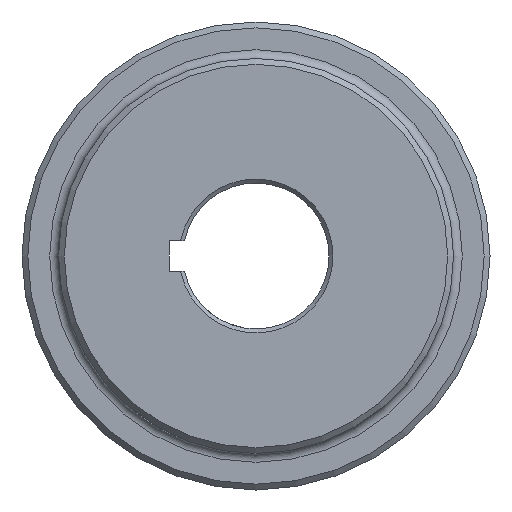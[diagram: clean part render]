
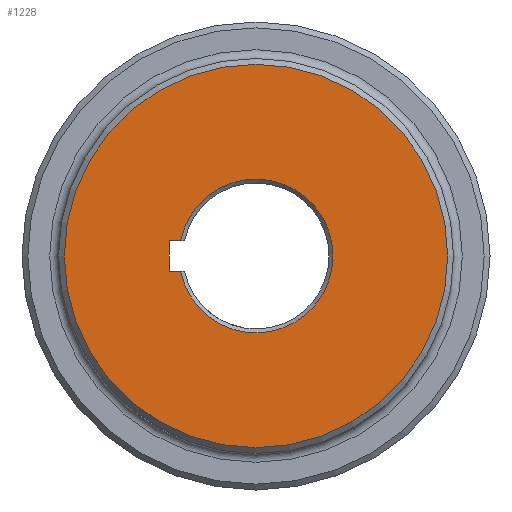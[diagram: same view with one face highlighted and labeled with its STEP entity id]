
A CAD part, left-side view. The second image highlights one B-rep face of the part: STEP entity #1228.
In plain terms, the highlighted planar face has unit normal (-1, 0, 0).
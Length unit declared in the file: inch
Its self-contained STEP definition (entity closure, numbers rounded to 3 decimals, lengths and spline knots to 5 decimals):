
#157 = CIRCLE ( 'NONE', #2708, 0.79025 ) ;
#222 = AXIS2_PLACEMENT_3D ( 'NONE', #2138, #1320, #1543 ) ;
#355 = LINE ( 'NONE', #1721, #2446 ) ;
#487 = VERTEX_POINT ( 'NONE', #1384 ) ;
#560 = DIRECTION ( 'NONE',  ( 0., 0., -1. ) ) ;
#602 = EDGE_CURVE ( 'NONE', #1437, #2152, #1894, .T. ) ;
#654 = VECTOR ( 'NONE', #2746, 39.37008 ) ;
#686 = FACE_OUTER_BOUND ( 'NONE', #2208, .T. ) ;
#688 = CARTESIAN_POINT ( 'NONE',  ( 0., 0., 0. ) ) ;
#706 = VERTEX_POINT ( 'NONE', #1077 ) ;
#727 = ORIENTED_EDGE ( 'NONE', *, *, #2052, .T. ) ;
#771 = DIRECTION ( 'NONE',  ( 0., 0., -1. ) ) ;
#812 = DIRECTION ( 'NONE',  ( 0., -1., 0. ) ) ;
#874 = DIRECTION ( 'NONE',  ( -1., 0., 0. ) ) ;
#931 = DIRECTION ( 'NONE',  ( 0., 1., 0. ) ) ;
#1077 = CARTESIAN_POINT ( 'NONE',  ( 0., 0., -1.97 ) ) ;
#1181 = ORIENTED_EDGE ( 'NONE', *, *, #602, .F. ) ;
#1209 = CARTESIAN_POINT ( 'NONE',  ( 0., 0., 0.156 ) ) ;
#1228 = ADVANCED_FACE ( 'NONE', ( #686, #2192 ), #2741, .F. ) ;
#1320 = DIRECTION ( 'NONE',  ( 1., 0., 0. ) ) ;
#1384 = CARTESIAN_POINT ( 'NONE',  ( 0., 0.88975, -0.156 ) ) ;
#1436 = CIRCLE ( 'NONE', #2054, 1.97 ) ;
#1437 = VERTEX_POINT ( 'NONE', #2413 ) ;
#1503 = ORIENTED_EDGE ( 'NONE', *, *, #2042, .T. ) ;
#1536 = EDGE_LOOP ( 'NONE', ( #1181, #727, #1686, #2268 ) ) ;
#1543 = DIRECTION ( 'NONE',  ( 0., 0., -1. ) ) ;
#1686 = ORIENTED_EDGE ( 'NONE', *, *, #2037, .F. ) ;
#1721 = CARTESIAN_POINT ( 'NONE',  ( 0., 0., -0.156 ) ) ;
#1844 = LINE ( 'NONE', #2197, #654 ) ;
#1894 = LINE ( 'NONE', #1209, #1998 ) ;
#1963 = CARTESIAN_POINT ( 'NONE',  ( 0., 0., 0. ) ) ;
#1998 = VECTOR ( 'NONE', #931, 39.37008 ) ;
#2037 = EDGE_CURVE ( 'NONE', #487, #2748, #355, .T. ) ;
#2042 = EDGE_CURVE ( 'NONE', #706, #706, #1436, .T. ) ;
#2052 = EDGE_CURVE ( 'NONE', #1437, #2748, #157, .T. ) ;
#2054 = AXIS2_PLACEMENT_3D ( 'NONE', #688, #874, #560 ) ;
#2126 = EDGE_CURVE ( 'NONE', #2152, #487, #1844, .T. ) ;
#2138 = CARTESIAN_POINT ( 'NONE',  ( 0., 0., 0. ) ) ;
#2144 = DIRECTION ( 'NONE',  ( 1., 0., 0. ) ) ;
#2152 = VERTEX_POINT ( 'NONE', #2368 ) ;
#2165 = CARTESIAN_POINT ( 'NONE',  ( 0., 0.7747, -0.156 ) ) ;
#2192 = FACE_BOUND ( 'NONE', #1536, .T. ) ;
#2197 = CARTESIAN_POINT ( 'NONE',  ( 0., 0.88975, -0.156 ) ) ;
#2208 = EDGE_LOOP ( 'NONE', ( #1503 ) ) ;
#2268 = ORIENTED_EDGE ( 'NONE', *, *, #2126, .F. ) ;
#2368 = CARTESIAN_POINT ( 'NONE',  ( 0., 0.88975, 0.156 ) ) ;
#2413 = CARTESIAN_POINT ( 'NONE',  ( 0., 0.7747, 0.156 ) ) ;
#2446 = VECTOR ( 'NONE', #812, 39.37008 ) ;
#2708 = AXIS2_PLACEMENT_3D ( 'NONE', #1963, #2144, #771 ) ;
#2741 = PLANE ( 'NONE',  #222 ) ;
#2746 = DIRECTION ( 'NONE',  ( 0., 0., -1. ) ) ;
#2748 = VERTEX_POINT ( 'NONE', #2165 ) ;
